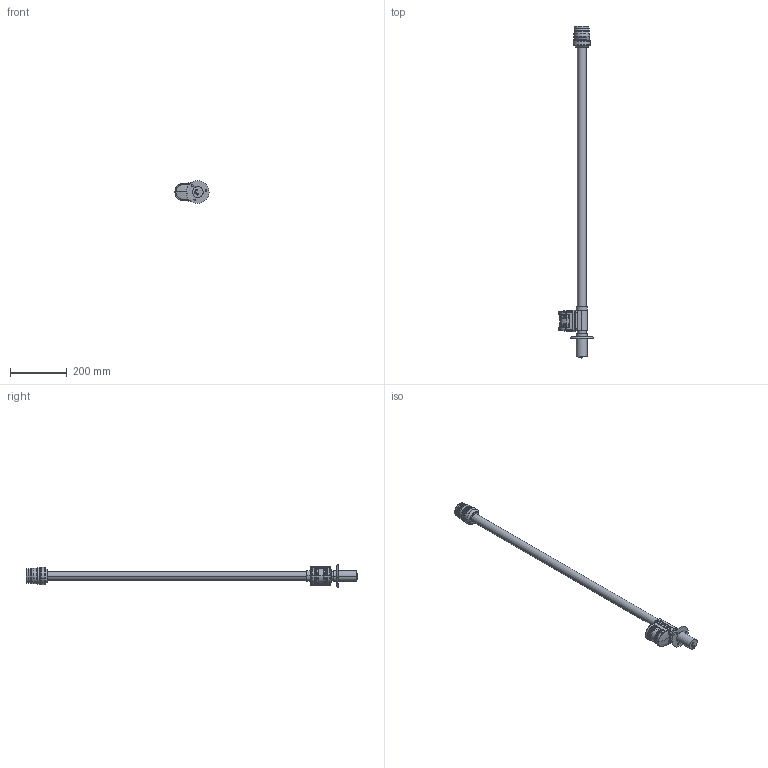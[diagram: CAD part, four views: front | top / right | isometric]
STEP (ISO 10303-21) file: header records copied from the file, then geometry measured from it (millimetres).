
FILE_DESCRIPTION (( 'STEP AP203' ), '1' );
FILE_NAME ('Parte4^11.125.00.STEP', '2022-04-22T07:33:04', ( '' ), ( '' ), 'SwSTEP 2.0', 'SolidWorks 2014', '' );
FILE_SCHEMA (( 'CONFIG_CONTROL_DESIGN' ));
Length unit declared in the file: millimetre
Products named in the file (1): Parte4^11.125.00
Bounding box: 120.32 x 1167.27 x 79.99 mm (x, y, z)
Volume: 1218400 mm3; surface area: 209078.5 mm2
Topology: 2 solids, 4 shells, 610 faces, 1493 edges, 910 vertices
Faces by surface type: plane 230, bspline 200, cylinder 135, cone 36, sphere 7, torus 2
Entity records: 26034 total; most frequent: CARTESIAN_POINT 12658, ORIENTED_EDGE 2966, DIRECTION 2564, EDGE_CURVE 1483, AXIS2_PLACEMENT_3D 937, VERTEX_POINT 907, VECTOR 690, LINE 690
